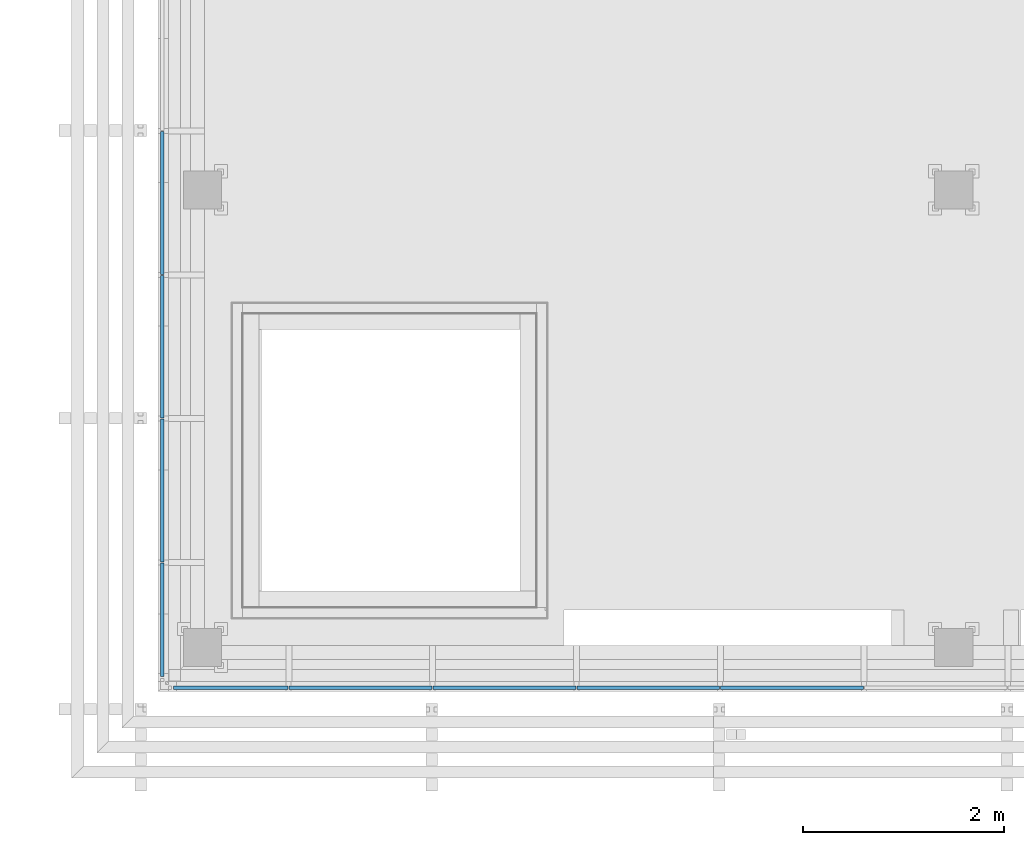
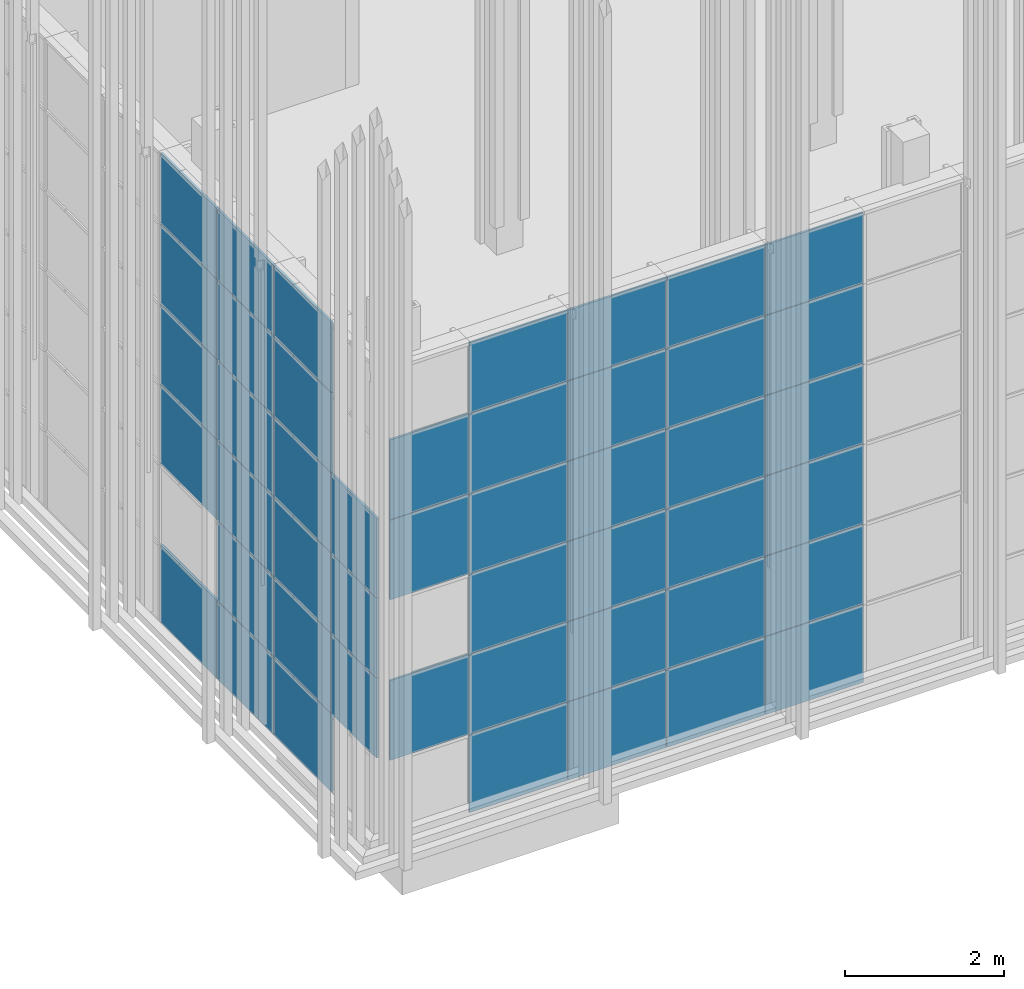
# One storey, part 50 of 260: 47 plates, 1 element without a shape of its own.
"""IFC2X3 building model written with IfcOpenShell, lengths in millimetres."""

from ifc_helpers import new_model, entity, si_unit, converted_unit, derived_unit, money_unit, direction, frame, origin_with_axes, place, context, subcontext, project, spatial, faceted_brep, source, transform, mapped, material, type_object, element, aggregate, save


model = new_model("IFC2X3")

# Units and contexts
model_context = context("Model", 3, precision=0.01, world=origin_with_axes(), true_north=direction((0.0, 1.0)))
body_context = subcontext(model_context, "Body", "Model", "MODEL_VIEW")
ifc_project = project(units=[si_unit("LENGTHUNIT", "METRE", prefix="MILLI"), si_unit("AREAUNIT", "SQUARE_METRE"), si_unit("VOLUMEUNIT", "CUBIC_METRE"), converted_unit("PLANEANGLEUNIT", "DEGREE", entity("IfcPlaneAngleMeasure", 0.0174532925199), si_unit("PLANEANGLEUNIT", "RADIAN"), dimensions=[0, 0, 0, 0, 0, 0, 0]), money_unit("EUR"), converted_unit("TIMEUNIT", "Year", entity("IfcTimeMeasure", 31556926.0), si_unit("TIMEUNIT", "SECOND"), dimensions=[0, 0, 1, 0, 0, 0, 0]), si_unit("MASSUNIT", "GRAM", prefix="KILO"), si_unit("THERMODYNAMICTEMPERATUREUNIT", "DEGREE_CELSIUS"), si_unit("LUMINOUSINTENSITYUNIT", "LUMEN"), si_unit("ENERGYUNIT", "JOULE", prefix="MEGA"), derived_unit("THERMALCONDUCTANCEUNIT", [(si_unit("POWERUNIT", "WATT"), 1), (si_unit("LENGTHUNIT", "METRE"), -1), (si_unit("THERMODYNAMICTEMPERATUREUNIT", "KELVIN"), -1)]), derived_unit("SPECIFICHEATCAPACITYUNIT", [(si_unit("ENERGYUNIT", "JOULE"), 1), (si_unit("MASSUNIT", "GRAM", prefix="KILO"), -1), (si_unit("THERMODYNAMICTEMPERATUREUNIT", "KELVIN"), -1)]), derived_unit("MASSDENSITYUNIT", [(si_unit("MASSUNIT", "GRAM", prefix="KILO"), 1), (si_unit("VOLUMEUNIT", "CUBIC_METRE"), -1)])], contexts=[model_context])

# Site, building, storey
site_placement = place(None, origin_with_axes())
site = spatial("IfcSite", under=ifc_project, at=site_placement, Name="Kolde pst 67a", CompositionType="ELEMENT")
building_placement = place(site_placement, origin_with_axes())
building = spatial("IfcBuilding", under=site, at=building_placement, Name="Riigigümnaasium", CompositionType="ELEMENT")
storey_placement = place(building_placement, origin_with_axes())
storey = spatial("IfcBuildingStorey", under=building, at=storey_placement, Name="1. korrus", CompositionType="ELEMENT", Elevation=0.0)

# Curtain wall, plates
curtain_wall_type = type_object("IfcCurtainWallType", Name="Curtain Wall Type", PredefinedType="NOTDEFINED")
curtain_wall_placement = place(storey_placement, frame((47829.9854655, 8727.77020058, -0.000749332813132), z_axis=(0.0, 0.0, 1.0), x_axis=(1.0, 0.0, 0.0)))
curtain_wall = element("IfcCurtainWall", 1, at=curtain_wall_placement, inside=storey, type_object=curtain_wall_type, Name="KLAASFASSAAD")
ifc_material = material(Name="_KLAAS - kirgas")
plate_type_1 = type_object("IfcPlateType", Name="Main Panel 1420 x 1195 x 33", PredefinedType="NOTDEFINED")
shared_shape_1 = source(origin_with_axes(), body_context, "Body", "Brep", [
    faceted_brep([(-1425.00000328, 1225.00045404, -16.5), (-1425.00000328, 1225.00045404, 16.5), (-4.99999672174, 1225.00045404, 16.5), (-4.99999672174, 1225.00045404, -16.5), (-1425.00000328, 30.0000016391, -16.5), (-1425.00000328, 30.0000016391, 16.5), (-4.99999672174, 30.0000016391, 16.5), (-4.99999672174, 30.0000016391, -16.5)], [[[0, 1, 2, 3]], [[4, 5, 1, 0]], [[1, 5, 6, 2]], [[3, 2, 6, 7]], [[0, 3, 7, 4]], [[7, 6, 5, 4]]]),
])
plate_1_placement = place(curtain_wall_placement, frame((-17737.4150632, 15102.4323432, 615.000517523), z_axis=(0.0, 0.0, 1.0), x_axis=(0.999999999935, -1.14108152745e-05, 0.0)))
plate_1 = element("IfcPlate", 2, at=plate_1_placement, type_object=plate_type_1, material=ifc_material, Name="RF PANEEL PEAMINE-155", context=body_context, shape_type="MappedRepresentation", body=[
    mapped(shared_shape_1, transform((715.0, 0.0, -615.00023181), x_axis=(1.0, 0.0, 0.0), y_axis=(0.0, 0.0, 1.0), z_axis=(0.0, -1.0, 0.0))),
])
plate_2_placement = place(curtain_wall_placement, frame((-19167.4150631, 15102.4486606, 615.000517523), z_axis=(0.0, 0.0, 1.0), x_axis=(0.999999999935, -1.1410815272e-05, 0.0)))
plate_2 = element("IfcPlate", 3, at=plate_2_placement, type_object=plate_type_1, material=ifc_material, Name="RF PANEEL PEAMINE-161", context=body_context, shape_type="MappedRepresentation", body=[
    mapped(shared_shape_1, transform((715.0, 0.0, -615.00023181), x_axis=(1.0, 0.0, 0.0), y_axis=(0.0, 0.0, 1.0), z_axis=(0.0, -1.0, 0.0))),
])
plate_3_placement = place(curtain_wall_placement, frame((-20597.415063, 15102.4649781, 615.000517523), z_axis=(0.0, 0.0, 1.0), x_axis=(0.999999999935, -1.14108152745e-05, 0.0)))
plate_3 = element("IfcPlate", 4, at=plate_3_placement, type_object=plate_type_1, material=ifc_material, Name="RF PANEEL PEAMINE-167", context=body_context, shape_type="MappedRepresentation", body=[
    mapped(shared_shape_1, transform((715.0, 0.0, -615.00023181), x_axis=(1.0, 0.0, 0.0), y_axis=(0.0, 0.0, 1.0), z_axis=(0.0, -1.0, 0.0))),
])
plate_4_placement = place(curtain_wall_placement, frame((-22027.4150629, 15102.4812955, 615.000517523), z_axis=(0.0, 0.0, 1.0), x_axis=(0.999999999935, -1.14108152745e-05, 0.0)))
plate_4 = element("IfcPlate", 5, at=plate_4_placement, type_object=plate_type_1, material=ifc_material, Name="RF PANEEL PEAMINE-173", context=body_context, shape_type="MappedRepresentation", body=[
    mapped(shared_shape_1, transform((715.0, 0.0, -615.00023181), x_axis=(1.0, 0.0, 0.0), y_axis=(0.0, 0.0, 1.0), z_axis=(0.0, -1.0, 0.0))),
])
plate_type_2 = type_object("IfcPlateType", Name="Main Panel 1420 x 1220 x 33", PredefinedType="NOTDEFINED")
shared_shape_2 = source(origin_with_axes(), body_context, "Body", "Brep", [
    faceted_brep([(-1425.00000328, 1225.00000656, -16.5), (-1425.00000328, 1225.00000656, 16.5), (-4.99999672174, 1225.00000656, 16.5), (-4.99999672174, 1225.00000656, -16.5), (-1425.00000328, 4.99999672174, -16.5), (-1425.00000328, 4.99999672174, 16.5), (-4.99999672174, 4.99999672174, 16.5), (-4.99999672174, 4.99999672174, -16.5)], [[[0, 1, 2, 3]], [[4, 5, 1, 0]], [[1, 5, 6, 2]], [[3, 2, 6, 7]], [[0, 3, 7, 4]], [[7, 6, 5, 4]]]),
])
plate_5_placement = place(curtain_wall_placement, frame((-17737.4150632, 15102.4323432, 1845.00074933), z_axis=(0.0, 0.0, 1.0), x_axis=(0.999999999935, -1.14108152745e-05, 0.0)))
plate_5 = element("IfcPlate", 6, at=plate_5_placement, type_object=plate_type_2, material=ifc_material, Name="RF PANEEL PEAMINE-156", context=body_context, shape_type="MappedRepresentation", body=[
    mapped(shared_shape_2, transform((715.0, 0.0, -615.0), x_axis=(1.0, 0.0, 0.0), y_axis=(0.0, 0.0, 1.0), z_axis=(0.0, -1.0, 0.0))),
])
plate_6_placement = place(curtain_wall_placement, frame((-17737.4150632, 15102.4323432, 3075.00074933), z_axis=(0.0, 0.0, 1.0), x_axis=(0.999999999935, -1.14108152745e-05, 0.0)))
plate_6 = element("IfcPlate", 7, at=plate_6_placement, type_object=plate_type_2, material=ifc_material, Name="RF PANEEL PEAMINE-157", context=body_context, shape_type="MappedRepresentation", body=[
    mapped(shared_shape_2, transform((715.0, 0.0, -615.0), x_axis=(1.0, 0.0, 0.0), y_axis=(0.0, 0.0, 1.0), z_axis=(0.0, -1.0, 0.0))),
])
plate_7_placement = place(curtain_wall_placement, frame((-17737.4150632, 15102.4323432, 4305.00074933), z_axis=(0.0, 0.0, 1.0), x_axis=(0.999999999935, -1.14108152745e-05, 0.0)))
plate_7 = element("IfcPlate", 8, at=plate_7_placement, type_object=plate_type_2, material=ifc_material, Name="RF PANEEL PEAMINE-158", context=body_context, shape_type="MappedRepresentation", body=[
    mapped(shared_shape_2, transform((715.0, 0.0, -615.0), x_axis=(1.0, 0.0, 0.0), y_axis=(0.0, 0.0, 1.0), z_axis=(0.0, -1.0, 0.0))),
])
plate_8_placement = place(curtain_wall_placement, frame((-17737.4150632, 15102.4323432, 5535.00074933), z_axis=(0.0, 0.0, 1.0), x_axis=(0.999999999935, -1.14108152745e-05, 0.0)))
plate_8 = element("IfcPlate", 9, at=plate_8_placement, type_object=plate_type_2, material=ifc_material, Name="RF PANEEL PEAMINE-159", context=body_context, shape_type="MappedRepresentation", body=[
    mapped(shared_shape_2, transform((715.0, 0.0, -615.0), x_axis=(1.0, 0.0, 0.0), y_axis=(0.0, 0.0, 1.0), z_axis=(0.0, -1.0, 0.0))),
])
plate_9_placement = place(curtain_wall_placement, frame((-19167.4150631, 15102.4486606, 1845.00074933), z_axis=(0.0, 0.0, 1.0), x_axis=(0.999999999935, -1.1410815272e-05, 0.0)))
plate_9 = element("IfcPlate", 10, at=plate_9_placement, type_object=plate_type_2, material=ifc_material, Name="RF PANEEL PEAMINE-162", context=body_context, shape_type="MappedRepresentation", body=[
    mapped(shared_shape_2, transform((715.0, 0.0, -615.0), x_axis=(1.0, 0.0, 0.0), y_axis=(0.0, 0.0, 1.0), z_axis=(0.0, -1.0, 0.0))),
])
plate_10_placement = place(curtain_wall_placement, frame((-19167.4150631, 15102.4486606, 3075.00074933), z_axis=(0.0, 0.0, 1.0), x_axis=(0.999999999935, -1.1410815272e-05, 0.0)))
plate_10 = element("IfcPlate", 11, at=plate_10_placement, type_object=plate_type_2, material=ifc_material, Name="RF PANEEL PEAMINE-163", context=body_context, shape_type="MappedRepresentation", body=[
    mapped(shared_shape_2, transform((715.0, 0.0, -615.0), x_axis=(1.0, 0.0, 0.0), y_axis=(0.0, 0.0, 1.0), z_axis=(0.0, -1.0, 0.0))),
])
plate_11_placement = place(curtain_wall_placement, frame((-19167.4150631, 15102.4486606, 4305.00074933), z_axis=(0.0, 0.0, 1.0), x_axis=(0.999999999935, -1.1410815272e-05, 0.0)))
plate_11 = element("IfcPlate", 12, at=plate_11_placement, type_object=plate_type_2, material=ifc_material, Name="RF PANEEL PEAMINE-164", context=body_context, shape_type="MappedRepresentation", body=[
    mapped(shared_shape_2, transform((715.0, 0.0, -615.0), x_axis=(1.0, 0.0, 0.0), y_axis=(0.0, 0.0, 1.0), z_axis=(0.0, -1.0, 0.0))),
])
plate_12_placement = place(curtain_wall_placement, frame((-19167.4150631, 15102.4486606, 5535.00074933), z_axis=(0.0, 0.0, 1.0), x_axis=(0.999999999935, -1.1410815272e-05, 0.0)))
plate_12 = element("IfcPlate", 13, at=plate_12_placement, type_object=plate_type_2, material=ifc_material, Name="RF PANEEL PEAMINE-165", context=body_context, shape_type="MappedRepresentation", body=[
    mapped(shared_shape_2, transform((715.0, 0.0, -615.0), x_axis=(1.0, 0.0, 0.0), y_axis=(0.0, 0.0, 1.0), z_axis=(0.0, -1.0, 0.0))),
])
plate_13_placement = place(curtain_wall_placement, frame((-20597.415063, 15102.4649781, 1845.00074933), z_axis=(0.0, 0.0, 1.0), x_axis=(0.999999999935, -1.14108152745e-05, 0.0)))
plate_13 = element("IfcPlate", 14, at=plate_13_placement, type_object=plate_type_2, material=ifc_material, Name="RF PANEEL PEAMINE-168", context=body_context, shape_type="MappedRepresentation", body=[
    mapped(shared_shape_2, transform((715.0, 0.0, -615.0), x_axis=(1.0, 0.0, 0.0), y_axis=(0.0, 0.0, 1.0), z_axis=(0.0, -1.0, 0.0))),
])
plate_14_placement = place(curtain_wall_placement, frame((-20597.415063, 15102.4649781, 3075.00074933), z_axis=(0.0, 0.0, 1.0), x_axis=(0.999999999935, -1.14108152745e-05, 0.0)))
plate_14 = element("IfcPlate", 15, at=plate_14_placement, type_object=plate_type_2, material=ifc_material, Name="RF PANEEL PEAMINE-169", context=body_context, shape_type="MappedRepresentation", body=[
    mapped(shared_shape_2, transform((715.0, 0.0, -615.0), x_axis=(1.0, 0.0, 0.0), y_axis=(0.0, 0.0, 1.0), z_axis=(0.0, -1.0, 0.0))),
])
plate_15_placement = place(curtain_wall_placement, frame((-20597.415063, 15102.4649781, 4305.00074933), z_axis=(0.0, 0.0, 1.0), x_axis=(0.999999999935, -1.14108152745e-05, 0.0)))
plate_15 = element("IfcPlate", 16, at=plate_15_placement, type_object=plate_type_2, material=ifc_material, Name="RF PANEEL PEAMINE-170", context=body_context, shape_type="MappedRepresentation", body=[
    mapped(shared_shape_2, transform((715.0, 0.0, -615.0), x_axis=(1.0, 0.0, 0.0), y_axis=(0.0, 0.0, 1.0), z_axis=(0.0, -1.0, 0.0))),
])
plate_16_placement = place(curtain_wall_placement, frame((-20597.415063, 15102.4649781, 5535.00074933), z_axis=(0.0, 0.0, 1.0), x_axis=(0.999999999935, -1.14108152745e-05, 0.0)))
plate_16 = element("IfcPlate", 17, at=plate_16_placement, type_object=plate_type_2, material=ifc_material, Name="RF PANEEL PEAMINE-171", context=body_context, shape_type="MappedRepresentation", body=[
    mapped(shared_shape_2, transform((715.0, 0.0, -615.0), x_axis=(1.0, 0.0, 0.0), y_axis=(0.0, 0.0, 1.0), z_axis=(0.0, -1.0, 0.0))),
])
plate_17_placement = place(curtain_wall_placement, frame((-22027.4150629, 15102.4812955, 1845.00074933), z_axis=(0.0, 0.0, 1.0), x_axis=(0.999999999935, -1.14108152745e-05, 0.0)))
plate_17 = element("IfcPlate", 18, at=plate_17_placement, type_object=plate_type_2, material=ifc_material, Name="RF PANEEL PEAMINE-174", context=body_context, shape_type="MappedRepresentation", body=[
    mapped(shared_shape_2, transform((715.0, 0.0, -615.0), x_axis=(1.0, 0.0, 0.0), y_axis=(0.0, 0.0, 1.0), z_axis=(0.0, -1.0, 0.0))),
])
plate_18_placement = place(curtain_wall_placement, frame((-22027.4150629, 15102.4812955, 3075.00074933), z_axis=(0.0, 0.0, 1.0), x_axis=(0.999999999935, -1.14108152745e-05, 0.0)))
plate_18 = element("IfcPlate", 19, at=plate_18_placement, type_object=plate_type_2, material=ifc_material, Name="RF PANEEL PEAMINE-175", context=body_context, shape_type="MappedRepresentation", body=[
    mapped(shared_shape_2, transform((715.0, 0.0, -615.0), x_axis=(1.0, 0.0, 0.0), y_axis=(0.0, 0.0, 1.0), z_axis=(0.0, -1.0, 0.0))),
])
plate_19_placement = place(curtain_wall_placement, frame((-22027.4150629, 15102.4812955, 4305.00074933), z_axis=(0.0, 0.0, 1.0), x_axis=(0.999999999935, -1.14108152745e-05, 0.0)))
plate_19 = element("IfcPlate", 20, at=plate_19_placement, type_object=plate_type_2, material=ifc_material, Name="RF PANEEL PEAMINE-176", context=body_context, shape_type="MappedRepresentation", body=[
    mapped(shared_shape_2, transform((715.0, 0.0, -615.0), x_axis=(1.0, 0.0, 0.0), y_axis=(0.0, 0.0, 1.0), z_axis=(0.0, -1.0, 0.0))),
])
plate_20_placement = place(curtain_wall_placement, frame((-22027.4150629, 15102.4812955, 5535.00074933), z_axis=(0.0, 0.0, 1.0), x_axis=(0.999999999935, -1.14108152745e-05, 0.0)))
plate_20 = element("IfcPlate", 21, at=plate_20_placement, type_object=plate_type_2, material=ifc_material, Name="RF PANEEL PEAMINE-177", context=body_context, shape_type="MappedRepresentation", body=[
    mapped(shared_shape_2, transform((715.0, 0.0, -615.0), x_axis=(1.0, 0.0, 0.0), y_axis=(0.0, 0.0, 1.0), z_axis=(0.0, -1.0, 0.0))),
])
plate_type_3 = type_object("IfcPlateType", Name="Main Panel 1143 x 1220 x 33", PredefinedType="NOTDEFINED")
shared_shape_3 = source(origin_with_axes(), body_context, "Body", "Brep", [
    faceted_brep([(-1147.56869367, 1224.99999421, -16.5), (-1147.56869367, 1224.99999421, 16.5), (-5.00000716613, 1224.99999421, 16.5), (-5.00000716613, 1224.99999421, -16.5), (-1147.56869367, 5.00000716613, -16.5), (-1147.56869367, 5.00000716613, 16.5), (-5.00000716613, 5.00000716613, 16.5), (-5.00000716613, 5.00000716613, -16.5)], [[[0, 1, 2, 3]], [[4, 5, 1, 0]], [[1, 5, 6, 2]], [[3, 2, 6, 7]], [[0, 3, 7, 4]], [[7, 6, 5, 4]]]),
])
plate_21_placement = place(curtain_wall_placement, frame((-23371.1996085, 15102.4966292, 1845.00074933), z_axis=(0.0, 0.0, 1.0), x_axis=(0.999999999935, -1.1410815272e-05, 0.0)))
plate_21 = element("IfcPlate", 22, at=plate_21_placement, type_object=plate_type_3, material=ifc_material, Name="RF PANEEL PEAMINE-083", context=body_context, shape_type="MappedRepresentation", body=[
    mapped(shared_shape_3, transform((628.784545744, 0.0, -615.0), x_axis=(1.0, 0.0, 0.0), y_axis=(0.0, 0.0, 1.0), z_axis=(0.0, -1.0, 0.0))),
])
plate_22_placement = place(curtain_wall_placement, frame((-23371.1996085, 15102.4966292, 4305.00074933), z_axis=(0.0, 0.0, 1.0), x_axis=(0.999999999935, -1.1410815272e-05, 0.0)))
plate_22 = element("IfcPlate", 23, at=plate_22_placement, type_object=plate_type_3, material=ifc_material, Name="RF PANEEL PEAMINE-085", context=body_context, shape_type="MappedRepresentation", body=[
    mapped(shared_shape_3, transform((628.784545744, 0.0, -615.0), x_axis=(1.0, 0.0, 0.0), y_axis=(0.0, 0.0, 1.0), z_axis=(0.0, -1.0, 0.0))),
])
plate_23_placement = place(curtain_wall_placement, frame((-23371.1996085, 15102.4966292, 5535.00074933), z_axis=(0.0, 0.0, 1.0), x_axis=(0.999999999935, -1.1410815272e-05, 0.0)))
plate_23 = element("IfcPlate", 24, at=plate_23_placement, type_object=plate_type_3, material=ifc_material, Name="RF PANEEL PEAMINE-118", context=body_context, shape_type="MappedRepresentation", body=[
    mapped(shared_shape_3, transform((628.784545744, 0.0, -615.0), x_axis=(1.0, 0.0, 0.0), y_axis=(0.0, 0.0, 1.0), z_axis=(0.0, -1.0, 0.0))),
])
plate_type_4 = type_object("IfcPlateType", Name="Main Panel 1420 x 1075 x 33", PredefinedType="NOTDEFINED")
shared_shape_4 = source(origin_with_axes(), body_context, "Body", "Brep", [
    faceted_brep([(-1425.00000328, 1079.99918535, -16.5), (-1425.00000328, 1079.99918535, 16.5), (-4.99999672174, 1079.99918535, 16.5), (-4.99999672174, 1079.99918535, -16.5), (-1425.00000328, 4.99999672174, -16.5), (-1425.00000328, 4.99999672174, 16.5), (-4.99999672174, 4.99999672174, 16.5), (-4.99999672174, 4.99999672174, -16.5)], [[[0, 1, 2, 3]], [[4, 5, 1, 0]], [[1, 5, 6, 2]], [[3, 2, 6, 7]], [[0, 3, 7, 4]], [[7, 6, 5, 4]]]),
])
plate_24_placement = place(curtain_wall_placement, frame((-17737.4150632, 15102.4323432, 6705.00033834), z_axis=(0.0, 0.0, 1.0), x_axis=(0.999999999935, -1.14108152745e-05, 0.0)))
plate_24 = element("IfcPlate", 25, at=plate_24_placement, type_object=plate_type_4, material=ifc_material, Name="RF PANEEL PEAMINE-090", context=body_context, shape_type="MappedRepresentation", body=[
    mapped(shared_shape_4, transform((715.0, 0.0, -554.99958901), x_axis=(1.0, 0.0, 0.0), y_axis=(0.0, 0.0, 1.0), z_axis=(0.0, -1.0, 0.0))),
])
plate_25_placement = place(curtain_wall_placement, frame((-19167.4150631, 15102.4486606, 6705.00033834), z_axis=(0.0, 0.0, 1.0), x_axis=(0.999999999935, -1.1410815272e-05, 0.0)))
plate_25 = element("IfcPlate", 26, at=plate_25_placement, type_object=plate_type_4, material=ifc_material, Name="RF PANEEL PEAMINE-089", context=body_context, shape_type="MappedRepresentation", body=[
    mapped(shared_shape_4, transform((715.0, 0.0, -554.99958901), x_axis=(1.0, 0.0, 0.0), y_axis=(0.0, 0.0, 1.0), z_axis=(0.0, -1.0, 0.0))),
])
plate_26_placement = place(curtain_wall_placement, frame((-20597.415063, 15102.4649781, 6705.00033834), z_axis=(0.0, 0.0, 1.0), x_axis=(0.999999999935, -1.14108152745e-05, 0.0)))
plate_26 = element("IfcPlate", 27, at=plate_26_placement, type_object=plate_type_4, material=ifc_material, Name="RF PANEEL PEAMINE-088", context=body_context, shape_type="MappedRepresentation", body=[
    mapped(shared_shape_4, transform((715.0, 0.0, -554.99958901), x_axis=(1.0, 0.0, 0.0), y_axis=(0.0, 0.0, 1.0), z_axis=(0.0, -1.0, 0.0))),
])
plate_27_placement = place(curtain_wall_placement, frame((-22027.4150629, 15102.4812955, 6705.00033834), z_axis=(0.0, 0.0, 1.0), x_axis=(0.999999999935, -1.14108152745e-05, 0.0)))
plate_27 = element("IfcPlate", 28, at=plate_27_placement, type_object=plate_type_4, material=ifc_material, Name="RF PANEEL PEAMINE-087", context=body_context, shape_type="MappedRepresentation", body=[
    mapped(shared_shape_4, transform((715.0, 0.0, -554.99958901), x_axis=(1.0, 0.0, 0.0), y_axis=(0.0, 0.0, 1.0), z_axis=(0.0, -1.0, 0.0))),
])
plate_type_5 = type_object("IfcPlateType", Name="Main Panel 625 x 1220 x 33", PredefinedType="NOTDEFINED")
shared_shape_5 = source(origin_with_axes(), body_context, "Body", "Brep", [
    faceted_brep([(-1239.77018861, 1225.00000562, -16.5), (-1239.77018861, 1225.00000562, 16.5), (-734.770190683, 1225.00000562, 16.5), (-734.770190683, 1225.00000562, -16.5), (-1239.77018861, 4.9999997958, -16.5), (-1239.77018861, 4.9999997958, 16.5), (-734.770190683, 4.9999997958, 16.5), (-109.999995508, 4.9999997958, 16.5), (-109.999995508, 1225.00000562, 16.5), (-109.999995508, 1225.00000562, -16.5), (-109.999995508, 4.9999997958, -16.5), (-734.770190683, 4.9999997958, -16.5)], [[[0, 1, 2, 3]], [[4, 5, 1, 0]], [[1, 5, 6, 7, 8, 2]], [[3, 2, 8, 9]], [[0, 3, 9, 10, 11, 4]], [[11, 6, 5, 4]], [[10, 7, 6, 11]], [[9, 8, 7, 10]]]),
])
plate_28_placement = place(curtain_wall_placement, frame((-23999.9791079, 15762.3507466, 4305.00074933), z_axis=(0.0, 0.0, 1.0), x_axis=(-7.6476848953e-06, -0.999999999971, 0.0)))
plate_28 = element("IfcPlate", 29, at=plate_28_placement, type_object=plate_type_5, material=ifc_material, Name="RF PANEEL PEAMINE-181", context=body_context, shape_type="MappedRepresentation", body=[
    mapped(shared_shape_5, transform((659.846942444, 0.0, -615.0), x_axis=(1.0, 0.0, 0.0), y_axis=(0.0, 0.0, 1.0), z_axis=(0.0, -1.0, 0.0))),
])
plate_29_placement = place(curtain_wall_placement, frame((-23999.9791079, 15762.3507466, 3075.00074933), z_axis=(0.0, 0.0, 1.0), x_axis=(-7.6476848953e-06, -0.999999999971, 0.0)))
plate_29 = element("IfcPlate", 30, at=plate_29_placement, type_object=plate_type_5, material=ifc_material, Name="RF PANEEL PEAMINE-180", context=body_context, shape_type="MappedRepresentation", body=[
    mapped(shared_shape_5, transform((659.846942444, 0.0, -615.0), x_axis=(1.0, 0.0, 0.0), y_axis=(0.0, 0.0, 1.0), z_axis=(0.0, -1.0, 0.0))),
])
plate_30_placement = place(curtain_wall_placement, frame((-23999.9791079, 15762.3507466, 1845.00074933), z_axis=(0.0, 0.0, 1.0), x_axis=(-7.6476848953e-06, -0.999999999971, 0.0)))
plate_30 = element("IfcPlate", 31, at=plate_30_placement, type_object=plate_type_5, material=ifc_material, Name="RF PANEEL PEAMINE-179", context=body_context, shape_type="MappedRepresentation", body=[
    mapped(shared_shape_5, transform((659.846942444, 0.0, -615.0), x_axis=(1.0, 0.0, 0.0), y_axis=(0.0, 0.0, 1.0), z_axis=(0.0, -1.0, 0.0))),
])
plate_type_6 = type_object("IfcPlateType", Name="Main Panel 915 x 1220 x 33", PredefinedType="NOTDEFINED")
shared_shape_6 = source(origin_with_axes(), body_context, "Body", "Brep", [
    faceted_brep([(-1935.00000983, 1225.00000656, -16.5), (-1935.00000983, 1225.00000656, 16.5), (-1430.0, 1225.00000656, 16.5), (-1430.0, 1225.00000656, -16.5), (-1935.00000983, 4.99999672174, -16.5), (-1935.00000983, 4.99999672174, 16.5), (-1430.0, 4.99999672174, 16.5), (-515.000003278, 4.99999672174, 16.5), (-515.000003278, 1225.00000656, 16.5), (-515.000003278, 1225.00000656, -16.5), (-515.000003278, 4.99999672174, -16.5), (-1430.0, 4.99999672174, -16.5)], [[[0, 1, 2, 3]], [[4, 5, 1, 0]], [[1, 5, 6, 7, 8, 2]], [[3, 2, 8, 9]], [[0, 3, 9, 10, 11, 4]], [[11, 6, 5, 4]], [[10, 7, 6, 11]], [[9, 8, 7, 10]]]),
])
plate_31_placement = place(curtain_wall_placement, frame((-23999.9686439, 17130.6075522, 3075.00074933), z_axis=(0.0, 0.0, 1.0), x_axis=(-7.64768489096e-06, -0.999999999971, 0.0)))
plate_31 = element("IfcPlate", 32, at=plate_31_placement, type_object=plate_type_6, material=ifc_material, Name="RF PANEEL PEAMINE-195", context=body_context, shape_type="MappedRepresentation", body=[
    mapped(shared_shape_6, transform((1293.3333377, 0.0, -615.0), x_axis=(1.0, 0.0, 0.0), y_axis=(0.0, 0.0, 1.0), z_axis=(0.0, -1.0, 0.0))),
])
plate_32_placement = place(curtain_wall_placement, frame((-23999.9686439, 17130.6075484, 5535.00074933), z_axis=(0.0, 0.0, 1.0), x_axis=(-7.64768489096e-06, -0.999999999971, 0.0)))
plate_32 = element("IfcPlate", 33, at=plate_32_placement, type_object=plate_type_6, material=ifc_material, Name="RF PANEEL PEAMINE-197", context=body_context, shape_type="MappedRepresentation", body=[
    mapped(shared_shape_6, transform((1293.33333392, 0.0, -615.0), x_axis=(1.0, 0.0, 0.0), y_axis=(0.0, 0.0, 1.0), z_axis=(0.0, -1.0, 0.0))),
])
plate_33_placement = place(curtain_wall_placement, frame((-23999.9577078, 18560.6075522, 3075.00074933), z_axis=(0.0, 0.0, 1.0), x_axis=(-7.64768489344e-06, -0.999999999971, 0.0)))
plate_33 = element("IfcPlate", 34, at=plate_33_placement, type_object=plate_type_6, material=ifc_material, Name="RF PANEEL PEAMINE-200", context=body_context, shape_type="MappedRepresentation", body=[
    mapped(shared_shape_6, transform((1293.3333377, 0.0, -615.0), x_axis=(1.0, 0.0, 0.0), y_axis=(0.0, 0.0, 1.0), z_axis=(0.0, -1.0, 0.0))),
])
plate_34_placement = place(curtain_wall_placement, frame((-23999.9577078, 18560.6075476, 5535.00074933), z_axis=(0.0, 0.0, 1.0), x_axis=(-7.64768489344e-06, -0.999999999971, 0.0)))
plate_34 = element("IfcPlate", 35, at=plate_34_placement, type_object=plate_type_6, material=ifc_material, Name="RF PANEEL PEAMINE-202", context=body_context, shape_type="MappedRepresentation", body=[
    mapped(shared_shape_6, transform((1293.33333314, 0.0, -615.0), x_axis=(1.0, 0.0, 0.0), y_axis=(0.0, 0.0, 1.0), z_axis=(0.0, -1.0, 0.0))),
])
plate_35_placement = place(curtain_wall_placement, frame((-23999.9467716, 19990.6075521, 3075.00074933), z_axis=(0.0, 0.0, 1.0), x_axis=(-7.64768489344e-06, -0.999999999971, 0.0)))
plate_35 = element("IfcPlate", 36, at=plate_35_placement, type_object=plate_type_6, material=ifc_material, Name="RF PANEEL PEAMINE-205", context=body_context, shape_type="MappedRepresentation", body=[
    mapped(shared_shape_6, transform((1293.3333377, 0.0, -615.0), x_axis=(1.0, 0.0, 0.0), y_axis=(0.0, 0.0, 1.0), z_axis=(0.0, -1.0, 0.0))),
])
plate_36_placement = place(curtain_wall_placement, frame((-23999.9467716, 19990.6075468, 5535.00074933), z_axis=(0.0, 0.0, 1.0), x_axis=(-7.64768489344e-06, -0.999999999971, 0.0)))
plate_36 = element("IfcPlate", 37, at=plate_36_placement, type_object=plate_type_6, material=ifc_material, Name="RF PANEEL PEAMINE-207", context=body_context, shape_type="MappedRepresentation", body=[
    mapped(shared_shape_6, transform((1293.33333236, 0.0, -615.0), x_axis=(1.0, 0.0, 0.0), y_axis=(0.0, 0.0, 1.0), z_axis=(0.0, -1.0, 0.0))),
])
shared_shape_7 = source(origin_with_axes(), body_context, "Body", "Brep", [
    faceted_brep([(-1935.00000983, 1225.00000656, -16.5), (-1935.00000983, 1225.00000656, 16.5), (-1430.0, 1225.00000656, 16.5), (-1430.0, 1225.00000656, -16.5), (-1935.00000983, 4.99999672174, -16.5), (-1935.00000983, 4.99999672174, 16.5), (-1430.0, 4.99999672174, 16.5), (-515.000003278, 4.99999672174, 16.5), (-515.000003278, 1225.00000656, 16.5), (-515.000003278, 1225.00000656, -16.5), (-515.000003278, 4.99999672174, -16.5), (-1430.0, 4.99999672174, -16.5)], [[[0, 1, 2, 3]], [[4, 5, 1, 0]], [[1, 5, 6, 7, 8, 2]], [[3, 2, 8, 9]], [[0, 3, 9, 10, 11, 4]], [[11, 6, 5, 4]], [[10, 7, 6, 11]], [[9, 8, 7, 10]]]),
])
plate_37_placement = place(curtain_wall_placement, frame((-23999.9686439, 17130.6075522, 4305.00074933), z_axis=(0.0, 0.0, 1.0), x_axis=(-7.64768489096e-06, -0.999999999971, 0.0)))
plate_37 = element("IfcPlate", 38, at=plate_37_placement, type_object=plate_type_6, material=ifc_material, Name="RF PANEEL PEAMINE-196", context=body_context, shape_type="MappedRepresentation", body=[
    mapped(shared_shape_7, transform((1293.3333377, 0.0, -615.0), x_axis=(1.0, 0.0, 0.0), y_axis=(0.0, 0.0, 1.0), z_axis=(0.0, -1.0, 0.0))),
])
plate_38_placement = place(curtain_wall_placement, frame((-23999.9577078, 18560.6075522, 4305.00074933), z_axis=(0.0, 0.0, 1.0), x_axis=(-7.64768489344e-06, -0.999999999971, 0.0)))
plate_38 = element("IfcPlate", 39, at=plate_38_placement, type_object=plate_type_6, material=ifc_material, Name="RF PANEEL PEAMINE-201", context=body_context, shape_type="MappedRepresentation", body=[
    mapped(shared_shape_7, transform((1293.3333377, 0.0, -615.0), x_axis=(1.0, 0.0, 0.0), y_axis=(0.0, 0.0, 1.0), z_axis=(0.0, -1.0, 0.0))),
])
plate_39_placement = place(curtain_wall_placement, frame((-23999.9467716, 19990.6075521, 4305.00074933), z_axis=(0.0, 0.0, 1.0), x_axis=(-7.64768489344e-06, -0.999999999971, 0.0)))
plate_39 = element("IfcPlate", 40, at=plate_39_placement, type_object=plate_type_6, material=ifc_material, Name="RF PANEEL PEAMINE-206", context=body_context, shape_type="MappedRepresentation", body=[
    mapped(shared_shape_7, transform((1293.3333377, 0.0, -615.0), x_axis=(1.0, 0.0, 0.0), y_axis=(0.0, 0.0, 1.0), z_axis=(0.0, -1.0, 0.0))),
])
plate_40_placement = place(curtain_wall_placement, frame((-23999.9686439, 17130.6075522, 1845.00074933), z_axis=(0.0, 0.0, 1.0), x_axis=(-7.64768489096e-06, -0.999999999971, 0.0)))
plate_40 = element("IfcPlate", 41, at=plate_40_placement, type_object=plate_type_6, material=ifc_material, Name="RF PANEEL PEAMINE-194", context=body_context, shape_type="MappedRepresentation", body=[
    mapped(shared_shape_7, transform((1293.3333377, 0.0, -615.0), x_axis=(1.0, 0.0, 0.0), y_axis=(0.0, 0.0, 1.0), z_axis=(0.0, -1.0, 0.0))),
])
plate_41_placement = place(curtain_wall_placement, frame((-23999.9577078, 18560.6075522, 1845.00074933), z_axis=(0.0, 0.0, 1.0), x_axis=(-7.64768489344e-06, -0.999999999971, 0.0)))
plate_41 = element("IfcPlate", 42, at=plate_41_placement, type_object=plate_type_6, material=ifc_material, Name="RF PANEEL PEAMINE-199", context=body_context, shape_type="MappedRepresentation", body=[
    mapped(shared_shape_7, transform((1293.3333377, 0.0, -615.0), x_axis=(1.0, 0.0, 0.0), y_axis=(0.0, 0.0, 1.0), z_axis=(0.0, -1.0, 0.0))),
])
plate_type_7 = type_object("IfcPlateType", Name="Main Panel 915 x 1075 x 33", PredefinedType="NOTDEFINED")
shared_shape_8 = source(origin_with_axes(), body_context, "Body", "Brep", [
    faceted_brep([(-1934.99999498, 1079.99888527, -16.5), (-1934.99999498, 1079.99888527, 16.5), (-1430.00000728, 1079.99888527, 16.5), (-1430.00000728, 1079.99888527, -16.5), (-1934.99999498, 4.99999671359, -16.5), (-1934.99999498, 4.99999671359, 16.5), (-1430.00000728, 4.99999671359, 16.5), (-514.999990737, 4.99999671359, 16.5), (-514.999990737, 1079.99888527, 16.5), (-514.999990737, 1079.99888527, -16.5), (-514.999990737, 4.99999671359, -16.5), (-1430.00000728, 4.99999671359, -16.5)], [[[0, 1, 2, 3]], [[4, 5, 1, 0]], [[1, 5, 6, 7, 8, 2]], [[3, 2, 8, 9]], [[0, 3, 9, 10, 11, 4]], [[11, 6, 5, 4]], [[10, 7, 6, 11]], [[9, 8, 7, 10]]]),
])
plate_42_placement = place(curtain_wall_placement, frame((-23999.9578384, 18543.5242091, 6841.25008067), z_axis=(0.0, 0.0, 1.0), x_axis=(-7.64768489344e-06, -0.999999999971, 0.0)))
plate_42 = element("IfcPlate", 43, at=plate_42_placement, type_object=plate_type_7, material=ifc_material, Name="RF PANEEL PEAMINE-237", context=body_context, shape_type="MappedRepresentation", body=[
    mapped(shared_shape_8, transform((1276.24999464, 0.0, -691.249331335), x_axis=(1.0, 0.0, 0.0), y_axis=(0.0, 0.0, 1.0), z_axis=(0.0, -1.0, 0.0))),
])
plate_43_placement = place(curtain_wall_placement, frame((-23999.9469022, 19973.5242073, 6841.25008067), z_axis=(0.0, 0.0, 1.0), x_axis=(-7.64768489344e-06, -0.999999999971, 0.0)))
plate_43 = element("IfcPlate", 44, at=plate_43_placement, type_object=plate_type_7, material=ifc_material, Name="RF PANEEL PEAMINE-243", context=body_context, shape_type="MappedRepresentation", body=[
    mapped(shared_shape_8, transform((1276.2499929, 0.0, -691.249331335), x_axis=(1.0, 0.0, 0.0), y_axis=(0.0, 0.0, 1.0), z_axis=(0.0, -1.0, 0.0))),
])
plate_44_placement = place(curtain_wall_placement, frame((-23999.9687746, 17113.5242109, 6841.25008067), z_axis=(0.0, 0.0, 1.0), x_axis=(-7.64768489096e-06, -0.999999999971, 0.0)))
plate_44 = element("IfcPlate", 45, at=plate_44_placement, type_object=plate_type_7, material=ifc_material, Name="RF PANEEL PEAMINE-231", context=body_context, shape_type="MappedRepresentation", body=[
    mapped(shared_shape_8, transform((1276.24999639, 0.0, -691.249331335), x_axis=(1.0, 0.0, 0.0), y_axis=(0.0, 0.0, 1.0), z_axis=(0.0, -1.0, 0.0))),
])
plate_type_8 = type_object("IfcPlateType", Name="Main Panel 915 x 1195 x 33", PredefinedType="NOTDEFINED")
shared_shape_9 = source(origin_with_axes(), body_context, "Body", "Brep", [
    faceted_brep([(-1935.0000098, 1225.00046278, -16.5), (-1935.0000098, 1225.00046278, 16.5), (-1429.99999636, 1225.00046278, 16.5), (-1429.99999636, 1225.00046278, -16.5), (-1934.99998849, 30.0000018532, -16.5), (-1934.99998849, 30.0000018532, 16.5), (-1429.99999636, 30.0000018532, 16.5), (-514.999993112, 30.0000018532, 16.5), (-515.00001442, 1225.00046278, 16.5), (-515.00001442, 1225.00046278, -16.5), (-514.999993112, 30.0000018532, -16.5), (-1429.99999636, 30.0000018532, -16.5)], [[[0, 1, 2, 3]], [[4, 5, 1, 0]], [[1, 5, 6, 7, 8, 2]], [[3, 2, 8, 9]], [[0, 3, 9, 10, 11, 4]], [[11, 6, 5, 4]], [[10, 7, 6, 11]], [[9, 8, 7, 10]]]),
])
plate_45_placement = place(curtain_wall_placement, frame((-23999.9686439, 17130.6075484, 615.000387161), z_axis=(0.0, 0.0, 1.0), x_axis=(-7.64768489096e-06, -0.999999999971, 0.0)))
plate_45 = element("IfcPlate", 46, at=plate_45_placement, type_object=plate_type_8, material=ifc_material, Name="RF PANEEL PEAMINE-193", context=body_context, shape_type="MappedRepresentation", body=[
    mapped(shared_shape_9, transform((1293.33333392, 0.0, -615.000362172), x_axis=(1.0, 0.0, 0.0), y_axis=(0.0, 0.0, 1.0), z_axis=(0.0, -1.0, 0.0))),
])
plate_46_placement = place(curtain_wall_placement, frame((-23999.9577078, 18560.6075476, 615.000387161), z_axis=(0.0, 0.0, 1.0), x_axis=(-7.64768489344e-06, -0.999999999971, 0.0)))
plate_46 = element("IfcPlate", 47, at=plate_46_placement, type_object=plate_type_8, material=ifc_material, Name="RF PANEEL PEAMINE-198", context=body_context, shape_type="MappedRepresentation", body=[
    mapped(shared_shape_9, transform((1293.33333314, 0.0, -615.000362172), x_axis=(1.0, 0.0, 0.0), y_axis=(0.0, 0.0, 1.0), z_axis=(0.0, -1.0, 0.0))),
])
plate_47_placement = place(curtain_wall_placement, frame((-23999.9467716, 19990.6075468, 615.000387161), z_axis=(0.0, 0.0, 1.0), x_axis=(-7.64768489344e-06, -0.999999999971, 0.0)))
plate_47 = element("IfcPlate", 48, at=plate_47_placement, type_object=plate_type_8, material=ifc_material, Name="RF PANEEL PEAMINE-203", context=body_context, shape_type="MappedRepresentation", body=[
    mapped(shared_shape_9, transform((1293.33333236, 0.0, -615.000362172), x_axis=(1.0, 0.0, 0.0), y_axis=(0.0, 0.0, 1.0), z_axis=(0.0, -1.0, 0.0))),
])
aggregate(curtain_wall, [plate_1, plate_5, plate_6, plate_7, plate_8, plate_2, plate_9, plate_10, plate_11, plate_12, plate_3, plate_13, plate_14, plate_15, plate_16, plate_4, plate_17, plate_18, plate_19, plate_20, plate_21, plate_22, plate_23, plate_24, plate_25, plate_26, plate_27, plate_28, plate_29, plate_30, plate_31, plate_37, plate_32, plate_33, plate_38, plate_34, plate_35, plate_39, plate_36, plate_42, plate_43, plate_44, plate_45, plate_40, plate_46, plate_41, plate_47])

save(model, "model.ifc")
